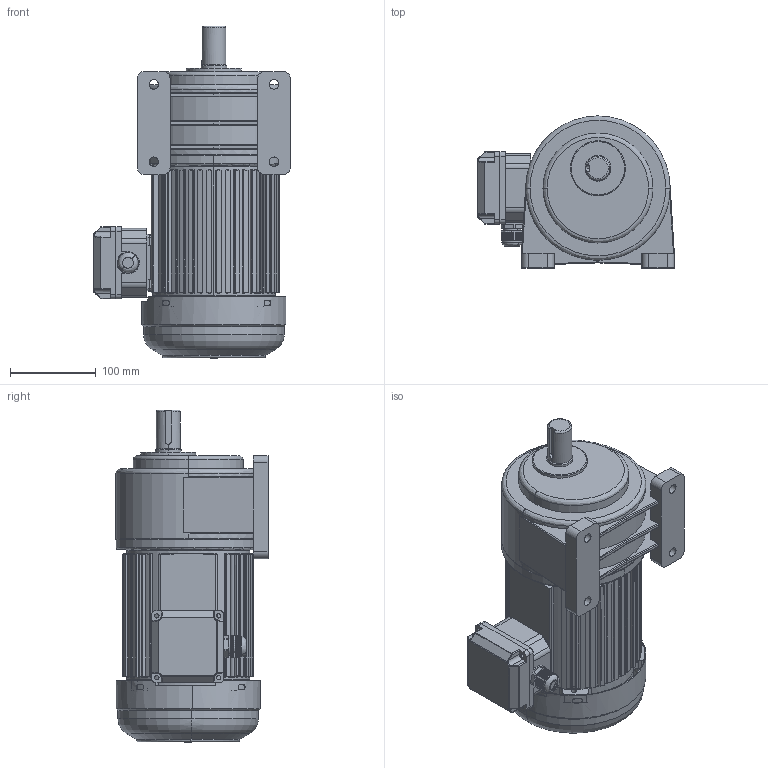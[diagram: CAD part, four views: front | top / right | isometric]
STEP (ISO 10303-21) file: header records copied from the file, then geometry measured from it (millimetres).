
FILE_DESCRIPTION (( 'STEP AP203' ), '1' );
FILE_NAME ('750W饜3#湍价陬拏宒.STEP', '2020-04-17T07:26:59', ( '' ), ( '' ), 'SwSTEP 2.0', 'SolidWorks 2019', '' );
FILE_SCHEMA (( 'CONFIG_CONTROL_DESIGN' ));
Length unit declared in the file: millimetre
Products named in the file (5): 750W价陬瑞欶; 750W饜3#拏宒; 湍价陬諉盄碟裔; 750W棠憤迖殤; 750W饜3#湍价陬拏宒
Assembly tree (4 placements, depth 2):
  750W饜3#湍价陬拏宒
    750W饜3#拏宒
    750W棠憤迖殤
    750W价陬瑞欶
    湍价陬諉盄碟裔
Bounding box: 229 x 177 x 386.5 mm (x, y, z)
Volume: 341621.7 mm3; surface area: 707982.6 mm2
Topology: 3 solids, 10 shells, 2507 faces, 6587 edges, 4164 vertices
Faces by surface type: plane 987, cylinder 783, bspline 407, torus 177, cone 141, sphere 12
Entity records: 107260 total; most frequent: CARTESIAN_POINT 49881, ORIENTED_EDGE 13144, DIRECTION 9881, EDGE_CURVE 6574, VERTEX_POINT 4164, AXIS2_PLACEMENT_3D 3464, LINE 2953, VECTOR 2953
